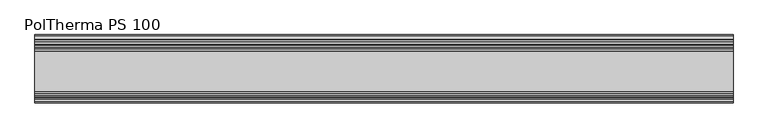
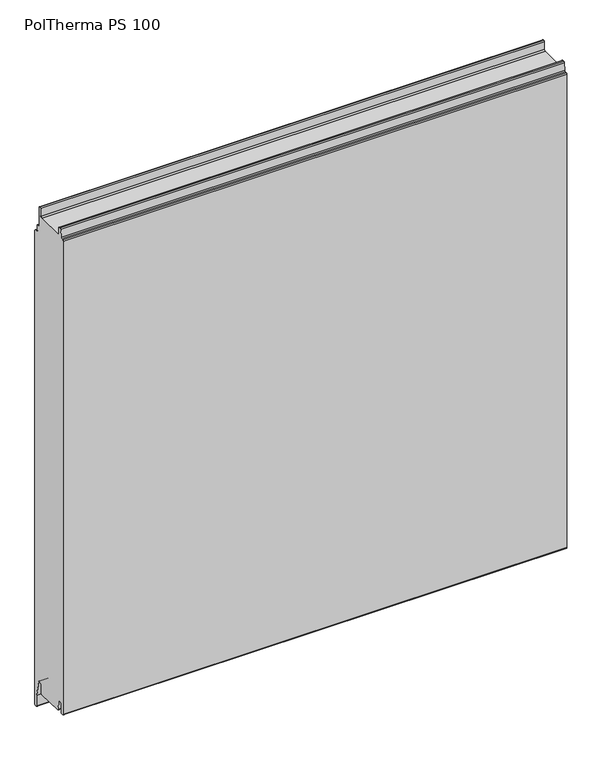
"""IFC4 building model written with IfcOpenShell, lengths in millimetres: plate geometry, Europanels_Poltherma PS_Hz : PolTherma PS 100."""

from ifc_helpers import new_model, si_unit, frame, origin, place, context, project, spatial, polyline, circle_curve, source, transform, mapped, element, save
from ifc_brep_helpers import plane_surface, cylinder_surface, revolved_surface, advanced_brep


def poltherma_ps_100_926b12da(model_context):
    return source(origin(), model_context, "Body", "AdvancedBrep", [
        advanced_brep(
        [(512.5, 50.0, 3.6911192), (512.5, 50.0, 1022.2385671), (512.5, 48.4255288, 1024.3101044), (512.5, 43.7941649, 1025.5968219), (512.5, 42.0, 1027.9574109), (512.5, 42.0, 1038.5271022), (512.5, 39.65, 1040.8771022), (512.5, 36.65, 1040.8771022), (512.5, 34.0, 1043.5271022), (512.5, 34.0, 1082.1367317), (512.5, 31.7657157, 1084.2363881), (512.5, 29.6717693, 1082.2998467), (512.5, 28.9864093, 1065.781124), (512.5, 26.3385145, 1063.2367317), (512.5, -33.7011224, 1063.2367317), (512.5, -34.4432694, 1079.8261148), (512.5, -36.4412711, 1081.7367317), (512.5, -39.1905122, 1081.7367317), (512.5, -41.1863232, 1079.8661089), (512.5, -42.2402866, 1063.6073545), (512.5, -44.2360976, 1061.7367317), (512.5, -47.9973085, 1061.7367317), (512.5, -49.9973085, 1059.7367317), (512.5, -50.0, 41.7345224), (512.5, -47.9973085, 39.7345224), (512.5, -45.27015, 39.7345224), (512.5, -43.2805625, 41.5307044), (512.5, -42.306057, 59.5434261), (512.5, -39.3216758, 62.2376991), (512.5, -36.3730069, 62.2376991), (512.5, -33.3900718, 59.5572268), (512.5, -32.337447, 41.2981312), (512.5, -30.5974015, 39.7345224), (512.5, 25.3314364, 38.2345224), (512.5, 27.6798185, 40.4973354), (512.5, 28.3397973, 58.2738665), (512.5, 30.9832499, 60.7376991), (512.5, 34.3675437, 60.7376991), (512.5, 36.9690493, 58.5923462), (512.5, 43.3, 25.9556669), (512.5, 43.3, 3.2773261), (512.5, 45.8152999, 1.1585869), (512.5, 48.2152999, 1.57238), (-512.5, 50.0, 3.6911192), (-512.5, 48.2152999, 1.57238), (-512.5, 45.8152999, 1.1585869), (-512.5, 43.3, 3.2773261), (-512.5, 43.3, 25.9556669), (-512.5, 36.9690493, 58.5923462), (-512.5, 34.3675437, 60.7376991), (-512.5, 30.9832499, 60.7376991), (-512.5, 28.3397973, 58.2738665), (-512.5, 27.6798185, 40.4973354), (-512.5, 25.3314364, 38.2345224), (-512.5, -30.5974015, 39.7345224), (-512.5, -32.337447, 41.2981312), (-512.5, -33.3900718, 59.5572268), (-512.5, -36.3730069, 62.2376991), (-512.5, -39.3216758, 62.2376991), (-512.5, -42.306057, 59.5434261), (-512.5, -43.2805625, 41.5307044), (-512.5, -45.27015, 39.7345224), (-512.5, -47.9973085, 39.7345224), (-512.5, -49.9973085, 41.7345224), (-512.5, -50.0, 1059.7367317), (-512.5, -47.9973085, 1061.7367317), (-512.5, -44.2360976, 1061.7367317), (-512.5, -42.2402866, 1063.6073545), (-512.5, -41.1863232, 1079.8661089), (-512.5, -39.1905122, 1081.7367317), (-512.5, -36.4412711, 1081.7367317), (-512.5, -34.4432694, 1079.8261148), (-512.5, -33.7011224, 1063.2367317), (-512.5, 26.3385145, 1063.2367317), (-512.5, 28.9864093, 1065.781124), (-512.5, 29.6452624, 1082.300507), (-512.5, 31.7657157, 1084.2363881), (-512.5, 33.9748677, 1082.1374188), (-512.5, 34.0, 1043.5271022), (-512.5, 36.65, 1040.8771022), (-512.5, 39.65, 1040.8771022), (-512.5, 42.0, 1038.5271022), (-512.5, 42.0, 1027.9574109), (-512.5, 43.7941649, 1025.5968219), (-512.5, 48.4255288, 1024.3101044), (-512.5, 50.0, 1022.2385671)],
        [
            (0, 1),
            (1, 2, circle_curve(frame((512.5, 47.85, 1022.2385671), z_axis=(1.0, 0.0, 0.0), x_axis=(0.0, 1.0, 0.0)), 2.15)),
            (2, 3),
            (3, 4, circle_curve(frame((512.5, 44.45, 1027.9574109), z_axis=(-1.0, 0.0, 0.0), x_axis=(0.0, 1.0, 0.0)), 2.45)),
            (4, 5),
            (5, 6, circle_curve(frame((512.5, 39.65, 1038.5271022), z_axis=(1.0, 0.0, 0.0), x_axis=(0.0, 1.0, 0.0)), 2.35)),
            (6, 7),
            (7, 8, circle_curve(frame((512.5, 36.65, 1043.5271022), z_axis=(-1.0, 0.0, 0.0), x_axis=(0.0, 1.0, 0.0)), 2.65)),
            (8, 9),
            (9, 10, circle_curve(frame((512.5, 31.8731507, 1082.1374188), z_axis=(1.0, 0.0, 0.0), x_axis=(0.0, 1.0, 0.0)), 2.101717)),
            (10, 11, circle_curve(frame((512.5, 31.7657157, 1082.1360446), z_axis=(1.0, 0.0, 0.0), x_axis=(0.0, 1.0, 0.0)), 2.1003435)),
            (11, 12),
            (12, 13, circle_curve(frame((512.5, 26.3385145, 1065.8867317), z_axis=(-1.0, 0.0, 0.0), x_axis=(0.0, 1.0, 0.0)), 2.65)),
            (13, 14),
            (14, 15),
            (15, 16, circle_curve(frame((512.5, -36.4412711, 1079.7367317), z_axis=(1.0, 0.0, 0.0), x_axis=(0.0, 1.0, 0.0)), 2.0)),
            (16, 17),
            (17, 18, circle_curve(frame((512.5, -39.1905122, 1079.7367317), z_axis=(1.0, 0.0, 0.0), x_axis=(0.0, 1.0, 0.0)), 2.0)),
            (18, 19),
            (19, 20, circle_curve(frame((512.5, -44.2360976, 1063.7367317), z_axis=(-1.0, 0.0, 0.0), x_axis=(0.0, 1.0, 0.0)), 2.0)),
            (20, 21),
            (21, 22, circle_curve(frame((512.5, -47.9973085, 1059.7367317), z_axis=(1.0, 0.0, 0.0), x_axis=(0.0, 1.0, 0.0)), 2.0)),
            (22, 23),
            (23, 24, circle_curve(frame((512.5, -47.9973085, 41.7345224), z_axis=(1.0, 0.0, 0.0), x_axis=(0.0, 1.0, 0.0)), 2.0)),
            (24, 25),
            (25, 26, circle_curve(frame((512.5, -45.27015, 41.7345224), z_axis=(1.0, 0.0, 0.0), x_axis=(0.0, 1.0, 0.0)), 2.0)),
            (26, 27),
            (27, 28, circle_curve(frame((512.5, -39.3216758, 59.2376991), z_axis=(-1.0, 0.0, 0.0), x_axis=(0.0, 1.0, 0.0)), 3.0)),
            (28, 29),
            (29, 30, circle_curve(frame((512.5, -36.3730069, 59.2376991), z_axis=(-1.0, 0.0, 0.0), x_axis=(0.0, 1.0, 0.0)), 3.0)),
            (30, 31),
            (31, 32, circle_curve(frame((512.5, -30.5974015, 41.4845224), z_axis=(1.0, 0.0, 0.0), x_axis=(0.0, 1.0, 0.0)), 1.75)),
            (32, 33),
            (33, 34, circle_curve(frame((512.5, 25.3314364, 40.5845224), z_axis=(1.0, 0.0, 0.0), x_axis=(0.0, 1.0, 0.0)), 2.35)),
            (34, 35),
            (35, 36, circle_curve(frame((512.5, 30.9832499, 58.0876991), z_axis=(-1.0, 0.0, 0.0), x_axis=(0.0, 1.0, 0.0)), 2.65)),
            (36, 37),
            (37, 38, circle_curve(frame((512.5, 34.3675437, 58.0876991), z_axis=(-1.0, 0.0, 0.0), x_axis=(0.0, 1.0, 0.0)), 2.65)),
            (38, 39),
            (39, 40),
            (40, 41, circle_curve(frame((512.5, 45.45, 3.2773261), z_axis=(1.0, 0.0, 0.0), x_axis=(0.0, 1.0, 0.0)), 2.15)),
            (41, 42),
            (42, 0, circle_curve(frame((512.5, 47.85, 3.6911192), z_axis=(1.0, 0.0, 0.0), x_axis=(0.0, 1.0, 0.0)), 2.15)),
            (43, 44, circle_curve(frame((-512.5, 47.85, 3.6911192), z_axis=(-1.0, 0.0, 0.0), x_axis=(0.0, 1.0, 0.0)), 2.15)),
            (44, 45),
            (45, 46, circle_curve(frame((-512.5, 45.45, 3.2773261), z_axis=(-1.0, 0.0, 0.0), x_axis=(0.0, 1.0, 0.0)), 2.15)),
            (46, 47),
            (47, 48),
            (48, 49, circle_curve(frame((-512.5, 34.3675437, 58.0876991), z_axis=(1.0, 0.0, 0.0), x_axis=(0.0, 1.0, 0.0)), 2.65)),
            (49, 50),
            (50, 51, circle_curve(frame((-512.5, 30.9832499, 58.0876991), z_axis=(1.0, 0.0, 0.0), x_axis=(0.0, 1.0, 0.0)), 2.65)),
            (51, 52),
            (52, 53, circle_curve(frame((-512.5, 25.3314364, 40.5845224), z_axis=(-1.0, 0.0, 0.0), x_axis=(0.0, 1.0, 0.0)), 2.35)),
            (53, 54),
            (54, 55, circle_curve(frame((-512.5, -30.5974015, 41.4845224), z_axis=(-1.0, 0.0, 0.0), x_axis=(0.0, 1.0, 0.0)), 1.75)),
            (55, 56),
            (56, 57, circle_curve(frame((-512.5, -36.3730069, 59.2376991), z_axis=(1.0, 0.0, 0.0), x_axis=(0.0, 1.0, 0.0)), 3.0)),
            (57, 58),
            (58, 59, circle_curve(frame((-512.5, -39.3216758, 59.2376991), z_axis=(1.0, 0.0, 0.0), x_axis=(0.0, 1.0, 0.0)), 3.0)),
            (59, 60),
            (60, 61, circle_curve(frame((-512.5, -45.27015, 41.7345224), z_axis=(-1.0, 0.0, 0.0), x_axis=(0.0, 1.0, 0.0)), 2.0)),
            (61, 62),
            (62, 63, circle_curve(frame((-512.5, -47.9973085, 41.7345224), z_axis=(-1.0, 0.0, 0.0), x_axis=(0.0, 1.0, 0.0)), 2.0)),
            (63, 64),
            (64, 65, circle_curve(frame((-512.5, -47.9973085, 1059.7367317), z_axis=(-1.0, 0.0, 0.0), x_axis=(0.0, 1.0, 0.0)), 2.0)),
            (65, 66),
            (66, 67, circle_curve(frame((-512.5, -44.2360976, 1063.7367317), z_axis=(1.0, 0.0, 0.0), x_axis=(0.0, 1.0, 0.0)), 2.0)),
            (67, 68),
            (68, 69, circle_curve(frame((-512.5, -39.1905122, 1079.7367317), z_axis=(-1.0, 0.0, 0.0), x_axis=(0.0, 1.0, 0.0)), 2.0)),
            (69, 70),
            (70, 71, circle_curve(frame((-512.5, -36.4412711, 1079.7367317), z_axis=(-1.0, 0.0, 0.0), x_axis=(0.0, 1.0, 0.0)), 2.0)),
            (71, 72),
            (72, 73),
            (73, 74, circle_curve(frame((-512.5, 26.3385145, 1065.8867317), z_axis=(1.0, 0.0, 0.0), x_axis=(0.0, 1.0, 0.0)), 2.65)),
            (74, 75),
            (75, 76, circle_curve(frame((-512.5, 31.7657157, 1082.1360446), z_axis=(-1.0, 0.0, 0.0), x_axis=(0.0, 1.0, 0.0)), 2.1003435)),
            (76, 77, circle_curve(frame((-512.5, 31.8731507, 1082.1374188), z_axis=(-1.0, 0.0, 0.0), x_axis=(0.0, 1.0, 0.0)), 2.101717)),
            (77, 78),
            (78, 79, circle_curve(frame((-512.5, 36.65, 1043.5271022), z_axis=(1.0, 0.0, 0.0), x_axis=(0.0, 1.0, 0.0)), 2.65)),
            (79, 80),
            (80, 81, circle_curve(frame((-512.5, 39.65, 1038.5271022), z_axis=(-1.0, 0.0, 0.0), x_axis=(0.0, 1.0, 0.0)), 2.35)),
            (81, 82),
            (82, 83, circle_curve(frame((-512.5, 44.45, 1027.9574109), z_axis=(1.0, 0.0, 0.0), x_axis=(0.0, 1.0, 0.0)), 2.45)),
            (83, 84),
            (84, 85, circle_curve(frame((-512.5, 47.85, 1022.2385671), z_axis=(-1.0, 0.0, 0.0), x_axis=(0.0, 1.0, 0.0)), 2.15)),
            (85, 43),
            (0, 43),
            (85, 1),
            (84, 2),
            (83, 3),
            (82, 4),
            (81, 5),
            (80, 6),
            (79, 7),
            (78, 8),
            (77, 9),
            (76, 10),
            (75, 11),
            (74, 12),
            (73, 13),
            (72, 14),
            (71, 15),
            (70, 16),
            (69, 17),
            (68, 18),
            (67, 19),
            (66, 20),
            (65, 21),
            (64, 22),
            (63, 23),
            (62, 24),
            (61, 25),
            (60, 26),
            (59, 27),
            (58, 28),
            (57, 29),
            (56, 30),
            (55, 31),
            (54, 32),
            (53, 33),
            (52, 34),
            (51, 35),
            (50, 36),
            (49, 37),
            (48, 38),
            (47, 39),
            (46, 40),
            (45, 41),
            (44, 42),
        ],
        [
            plane_surface(frame((512.5, 50.0, 1022.2385671), z_axis=(1.0, 0.0, 0.0), x_axis=(0.0, 0.0, 1.0))),
            plane_surface(frame((-512.5, 50.0, 1022.2385671), z_axis=(-1.0, 0.0, 0.0), x_axis=(0.0, 0.0, -1.0))),
            plane_surface(frame((512.5, 50.0, 3.6911192), z_axis=(0.0, 1.0, 0.0), x_axis=(-1.0, 0.0, 0.0))),
            cylinder_surface(frame((-512.5, 47.85, 1022.2385671), z_axis=(1.0, 0.0, 0.0), x_axis=(0.0, 1.0, 0.0)), 2.15),
            plane_surface(frame((512.5, 48.4255288, 1024.3101044), z_axis=(0.0, 0.2676878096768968, 0.9635057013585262), x_axis=(-1.0, 0.0, 0.0))),
            revolved_surface(polyline([(-512.5, 46.900000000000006, 1027.9574109), (512.5, 46.900000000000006, 1027.9574109)]), (-512.5, 44.45, 1027.9574109), (-1.0, 0.0, 0.0)),
            plane_surface(frame((512.5, 42.0, 1027.9574109), z_axis=(0.0, 1.0, 0.0), x_axis=(-1.0, 0.0, 0.0))),
            cylinder_surface(frame((-512.5, 39.65, 1038.5271022), z_axis=(1.0, 0.0, 0.0), x_axis=(0.0, 1.0, 0.0)), 2.35),
            plane_surface(frame((512.5, 39.65, 1040.8771022), z_axis=(0.0, 0.0, 1.0), x_axis=(-1.0, 0.0, 0.0))),
            revolved_surface(polyline([(-512.5, 39.3, 1043.5271022), (512.5, 39.3, 1043.5271022)]), (-512.5, 36.65, 1043.5271022), (-1.0, 0.0, 0.0)),
            plane_surface(frame((512.5, 34.0, 1043.5271022), z_axis=(0.0, 1.0, 0.0), x_axis=(-1.0, 0.0, 0.0))),
            cylinder_surface(frame((-512.5, 31.8731507, 1082.1374188), z_axis=(1.0, 0.0, 0.0), x_axis=(0.0, 1.0, 0.0)), 2.101717),
            cylinder_surface(frame((-512.5, 31.7657157, 1082.1360446), z_axis=(1.0, 0.0, 0.0), x_axis=(0.0, 1.0, 0.0)), 2.1003435),
            plane_surface(frame((512.5, 29.6452624, 1082.300507), z_axis=(0.0, -0.9992055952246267, 0.03985195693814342), x_axis=(-1.0, 0.0, 0.0))),
            revolved_surface(polyline([(-512.5, 28.988514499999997, 1065.8867317), (512.5, 28.988514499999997, 1065.8867317)]), (-512.5, 26.3385145, 1065.8867317), (-1.0, 0.0, 0.0)),
            plane_surface(frame((512.5, 26.3385145, 1063.2367317), z_axis=(0.0, 0.0, 1.0), x_axis=(-1.0, 0.0, 0.0))),
            plane_surface(frame((512.5, -33.7011224, 1063.2367317), z_axis=(0.0, 0.9990008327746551, 0.044691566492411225), x_axis=(-1.0, 0.0, 0.0))),
            cylinder_surface(frame((-512.5, -36.4412711, 1079.7367317), z_axis=(1.0, 0.0, 0.0), x_axis=(0.0, 1.0, 0.0)), 2.0),
            plane_surface(frame((512.5, -36.4412711, 1081.7367317), z_axis=(0.0, 0.0, 1.0), x_axis=(-1.0, 0.0, 0.0))),
            cylinder_surface(frame((-512.5, -39.1905122, 1079.7367317), z_axis=(1.0, 0.0, 0.0), x_axis=(0.0, 1.0, 0.0)), 2.0),
            plane_surface(frame((512.5, -41.1863232, 1079.8661089), z_axis=(0.0, -0.9979054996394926, 0.06468859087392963), x_axis=(-1.0, 0.0, 0.0))),
            revolved_surface(polyline([(-512.5, -42.2360976, 1063.7367317), (512.5, -42.2360976, 1063.7367317)]), (-512.5, -44.2360976, 1063.7367317), (-1.0, 0.0, 0.0)),
            plane_surface(frame((512.5, -44.2360976, 1061.7367317), z_axis=(0.0, 0.0, 1.0), x_axis=(-1.0, 0.0, 0.0))),
            cylinder_surface(frame((-512.5, -47.9973085, 1059.7367317), z_axis=(1.0, 0.0, 0.0), x_axis=(0.0, 1.0, 0.0)), 2.0),
            plane_surface(frame((512.5, -50.0, 1059.7367317), z_axis=(0.0, -1.0, 0.0), x_axis=(-1.0, 0.0, 0.0))),
            cylinder_surface(frame((-512.5, -47.9973085, 41.7345224), z_axis=(1.0, 0.0, 0.0), x_axis=(0.0, 1.0, 0.0)), 2.0),
            plane_surface(frame((512.5, -47.9973085, 39.7345224), z_axis=(0.0, 0.0, -1.0), x_axis=(-1.0, 0.0, 0.0))),
            cylinder_surface(frame((-512.5, -45.27015, 41.7345224), z_axis=(1.0, 0.0, 0.0), x_axis=(0.0, 1.0, 0.0)), 2.0),
            plane_surface(frame((512.5, -43.2805625, 41.5307044), z_axis=(0.0, 0.9985397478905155, -0.054021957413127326), x_axis=(-1.0, 0.0, 0.0))),
            revolved_surface(polyline([(-512.5, -36.3216758, 59.2376991), (512.5, -36.3216758, 59.2376991)]), (-512.5, -39.3216758, 59.2376991), (-1.0, 0.0, 0.0)),
            plane_surface(frame((512.5, -39.3216758, 62.2376991), z_axis=(0.0, 0.0, -1.0), x_axis=(-1.0, 0.0, 0.0))),
            revolved_surface(polyline([(-512.5, -33.3730069, 59.2376991), (512.5, -33.3730069, 59.2376991)]), (-512.5, -36.3730069, 59.2376991), (-1.0, 0.0, 0.0)),
            plane_surface(frame((512.5, -33.3900718, 59.5572268), z_axis=(0.0, -0.9983424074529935, -0.05755377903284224), x_axis=(-1.0, 0.0, 0.0))),
            cylinder_surface(frame((-512.5, -30.5974015, 41.4845224), z_axis=(1.0, 0.0, 0.0), x_axis=(0.0, 1.0, 0.0)), 1.75),
            plane_surface(frame((512.5, -30.5974015, 39.7345224), z_axis=(0.0, -0.02681015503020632, -0.9996405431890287), x_axis=(-1.0, 0.0, 0.0))),
            cylinder_surface(frame((-512.5, 25.3314364, 40.5845224), z_axis=(1.0, 0.0, 0.0), x_axis=(0.0, 1.0, 0.0)), 2.35),
            plane_surface(frame((512.5, 27.6798185, 40.4973354), z_axis=(0.0, 0.9993115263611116, -0.037100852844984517), x_axis=(-1.0, 0.0, 0.0))),
            revolved_surface(polyline([(-512.5, 33.6332499, 58.0876991), (512.5, 33.6332499, 58.0876991)]), (-512.5, 30.9832499, 58.0876991), (-1.0, 0.0, 0.0)),
            plane_surface(frame((512.5, 30.9832499, 60.7376991), z_axis=(0.0, 2.141538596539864e-11, -1.0), x_axis=(-1.0, 0.0, 0.0))),
            revolved_surface(polyline([(-512.5, 37.0175437, 58.0876991), (512.5, 37.0175437, 58.0876991)]), (-512.5, 34.3675437, 58.0876991), (-1.0, 0.0, 0.0)),
            plane_surface(frame((512.5, 36.9690493, 58.5923462), z_axis=(0.0, -0.9817002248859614, -0.1904328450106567), x_axis=(-1.0, 0.0, 0.0))),
            plane_surface(frame((512.5, 43.3, 25.9556669), z_axis=(0.0, -1.0, 0.0), x_axis=(-1.0, 0.0, 0.0))),
            cylinder_surface(frame((-512.5, 45.45, 3.2773261), z_axis=(1.0, 0.0, 0.0), x_axis=(0.0, 1.0, 0.0)), 2.15),
            plane_surface(frame((512.5, 45.8152999, 1.1585869), z_axis=(0.0, 0.16990691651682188, -0.985460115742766), x_axis=(-1.0, 0.0, 0.0))),
            cylinder_surface(frame((-512.5, 47.85, 3.6911192), z_axis=(1.0, 0.0, 0.0), x_axis=(0.0, 1.0, 0.0)), 2.15),
        ],
        [
            (0, [[1, 2, 3, 4, 5, 6, 7, 8, 9, 10, 11, 12, 13, 14, 15, 16, 17, 18, 19, 20, 21, 22, 23, 24, 25, 26, 27, 28, 29, 30, 31, 32, 33, 34, 35, 36, 37, 38, 39, 40, 41, 42, 43]]),
            (1, [[44, 45, 46, 47, 48, 49, 50, 51, 52, 53, 54, 55, 56, 57, 58, 59, 60, 61, 62, 63, 64, 65, 66, 67, 68, 69, 70, 71, 72, 73, 74, 75, 76, 77, 78, 79, 80, 81, 82, 83, 84, 85, 86]]),
            (2, [[-1, 87, -86, 88]]),
            (3, [[-2, -88, -85, 89]]),
            (4, [[-3, -89, -84, 90]]),
            (5, [[-4, -90, -83, 91]]),
            (6, [[-5, -91, -82, 92]]),
            (7, [[-6, -92, -81, 93]]),
            (8, [[-7, -93, -80, 94]]),
            (9, [[-8, -94, -79, 95]]),
            (10, [[-9, -95, -78, 96]]),
            (11, [[-10, -96, -77, 97]]),
            (12, [[-11, -97, -76, 98]]),
            (13, [[-12, -98, -75, 99]]),
            (14, [[-13, -99, -74, 100]]),
            (15, [[-14, -100, -73, 101]]),
            (16, [[-15, -101, -72, 102]]),
            (17, [[-16, -102, -71, 103]]),
            (18, [[-17, -103, -70, 104]]),
            (19, [[-18, -104, -69, 105]]),
            (20, [[-19, -105, -68, 106]]),
            (21, [[-20, -106, -67, 107]]),
            (22, [[-21, -107, -66, 108]]),
            (23, [[-22, -108, -65, 109]]),
            (24, [[-23, -109, -64, 110]]),
            (25, [[-24, -110, -63, 111]]),
            (26, [[-25, -111, -62, 112]]),
            (27, [[-26, -112, -61, 113]]),
            (28, [[-27, -113, -60, 114]]),
            (29, [[-28, -114, -59, 115]]),
            (30, [[-29, -115, -58, 116]]),
            (31, [[-30, -116, -57, 117]]),
            (32, [[-31, -117, -56, 118]]),
            (33, [[-32, -118, -55, 119]]),
            (34, [[-33, -119, -54, 120]]),
            (35, [[-34, -120, -53, 121]]),
            (36, [[-35, -121, -52, 122]]),
            (37, [[-36, -122, -51, 123]]),
            (38, [[-37, -123, -50, 124]]),
            (39, [[-38, -124, -49, 125]]),
            (40, [[-39, -125, -48, 126]]),
            (41, [[-40, -126, -47, 127]]),
            (42, [[-41, -127, -46, 128]]),
            (43, [[-42, -128, -45, 129]]),
            (44, [[-43, -129, -44, -87]]),
        ],
    ),
    ])


if __name__ == "__main__":
    model = new_model("IFC4")
    model_context = context("Model", 3, world=origin())
    ifc_project = project(units=[si_unit("LENGTHUNIT", "METRE", prefix="MILLI")], contexts=[model_context])
    site = spatial("IfcSite", under=ifc_project)
    building = spatial("IfcBuilding", under=site)
    placement = place(None, origin())
    poltherma_ps_100_shape = poltherma_ps_100_926b12da(model_context)
    element("IfcPlate", 1, ObjectType="Europanels_Poltherma PS_Hz : PolTherma PS 100", at=placement, inside=building, context=model_context, shape_type="MappedRepresentation", body=[
        mapped(poltherma_ps_100_shape, transform((0.0, 0.0, 0.0), x_axis=(1.0, 0.0, 0.0), y_axis=(0.0, 1.0, 0.0), z_axis=(0.0, 0.0, 1.0))),
    ])
    save(model, "model.ifc")
